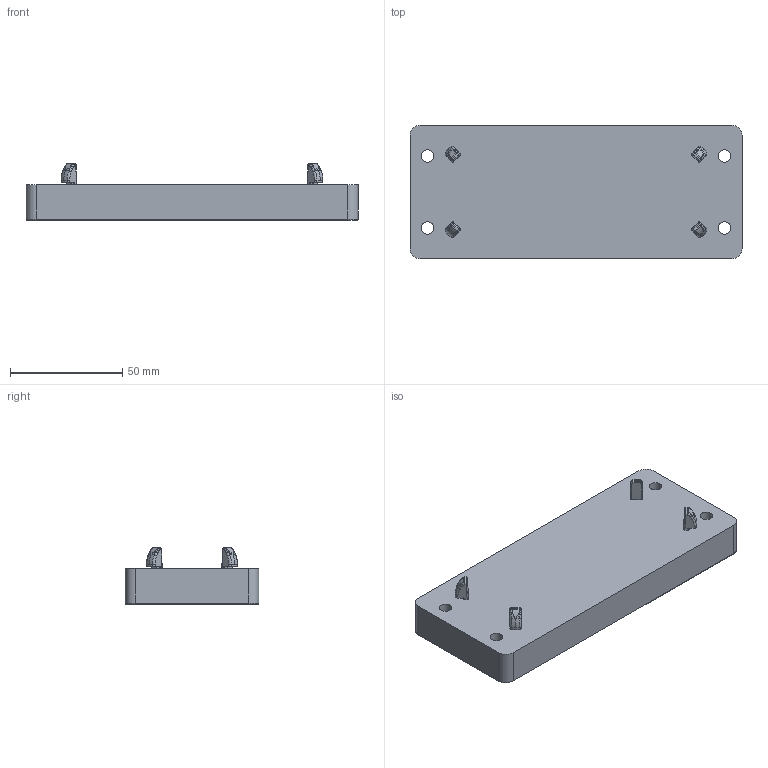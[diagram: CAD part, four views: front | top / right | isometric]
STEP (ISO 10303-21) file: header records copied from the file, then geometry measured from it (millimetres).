
FILE_DESCRIPTION( ('This file contains a STEP AP42 implementation' ,'as created by ZW3D STEP Interface translator.') ,'2;1' );
FILE_NAME( '301130 KDP 24-13.stp' ,'23 415.1126 0', (''), ('ZWCAD Software Co.'), 'Version 1.0', 'ZW3D to STEP translator', '' );
FILE_SCHEMA(('CONFIG_CONTROL_DESIGN'));
Length unit declared in the file: millimetre
Products named in the file (1): 0
Bounding box: 147.6 x 59.4 x 25.3 mm (x, y, z)
Volume: 119579.9 mm3; surface area: 39664 mm2
Topology: 1 solids, 13 shells, 2563 faces, 7120 edges, 4682 vertices
Faces by surface type: bspline 1086, plane 1004, cylinder 325, torus 132, sphere 8, cone 8
Full cylindrical faces by diameter (mm): 2.5 x3, 2.8 x3, 3.3 x10, 3.7 x10, 5.5 x4, 7 x2, 8.6 x6, 9 x4, 10 x2, 12 x6, 14.45 x4, 14.5 x4, 16.5 x4, 21.15 x1, 21.2 x1, 24.7 x1
Entity records: 92444 total; most frequent: CARTESIAN_POINT 33954, ORIENTED_EDGE 14240, DIRECTION 8578, EDGE_CURVE 7120, VERTEX_POINT 4682, VECTOR 3838, LINE 3838, EDGE_LOOP 2738
